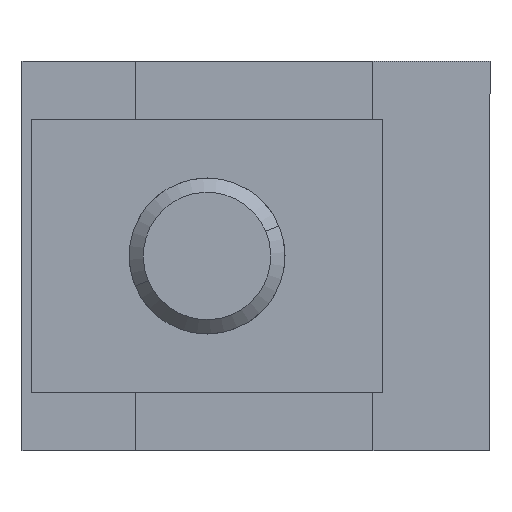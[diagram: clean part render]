
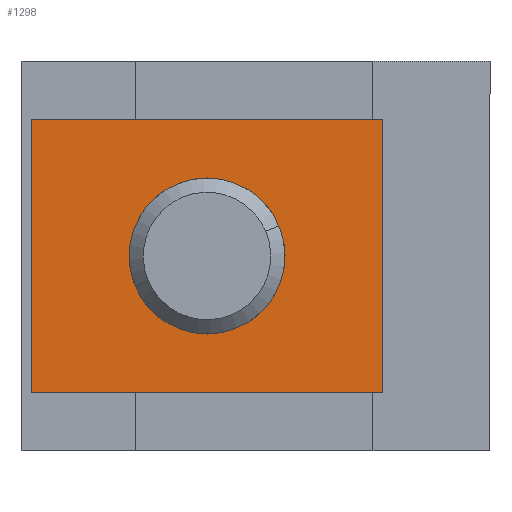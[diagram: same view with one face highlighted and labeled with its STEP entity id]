
A CAD part, front view. The second image highlights one B-rep face of the part: STEP entity #1298.
In plain terms, the highlighted planar face has unit normal (0, -1, 0).
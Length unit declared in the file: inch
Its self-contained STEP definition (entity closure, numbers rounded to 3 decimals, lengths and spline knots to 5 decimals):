
#37 = CARTESIAN_POINT ( 'NONE',  ( -0.4375, 0., 0.5625 ) ) ;
#48 = VERTEX_POINT ( 'NONE', #37 ) ;
#50 = CARTESIAN_POINT ( 'NONE',  ( 0., 0., 0.25 ) ) ;
#108 = CARTESIAN_POINT ( 'NONE',  ( 0.4375, 0., 0.5625 ) ) ;
#140 = EDGE_CURVE ( 'NONE', #822, #1328, #1306, .T. ) ;
#153 = CARTESIAN_POINT ( 'NONE',  ( -0.4375, 0., 0.5625 ) ) ;
#185 = VECTOR ( 'NONE', #1607, 39.37008 ) ;
#282 = VECTOR ( 'NONE', #792, 39.37008 ) ;
#288 = EDGE_CURVE ( 'NONE', #1134, #401, #365, .T. ) ;
#297 = CARTESIAN_POINT ( 'NONE',  ( 0., 0., 0. ) ) ;
#320 = DIRECTION ( 'NONE',  ( 0., 1., 0. ) ) ;
#365 = LINE ( 'NONE', #998, #1103 ) ;
#401 = VERTEX_POINT ( 'NONE', #1972 ) ;
#410 = ORIENTED_EDGE ( 'NONE', *, *, #288, .T. ) ;
#431 = CARTESIAN_POINT ( 'NONE',  ( 0., 0., -0.25 ) ) ;
#488 = CARTESIAN_POINT ( 'NONE',  ( 0., 0., 0. ) ) ;
#576 = DIRECTION ( 'NONE',  ( 0., 0., -1. ) ) ;
#600 = ORIENTED_EDGE ( 'NONE', *, *, #1064, .T. ) ;
#648 = EDGE_CURVE ( 'NONE', #1399, #401, #1027, .T. ) ;
#740 = CARTESIAN_POINT ( 'NONE',  ( 0.4375, 0., 0.5625 ) ) ;
#758 = EDGE_CURVE ( 'NONE', #1328, #822, #1642, .T. ) ;
#792 = DIRECTION ( 'NONE',  ( 0., 0., -1. ) ) ;
#821 = DIRECTION ( 'NONE',  ( 0., 1., 0. ) ) ;
#822 = VERTEX_POINT ( 'NONE', #50 ) ;
#840 = AXIS2_PLACEMENT_3D ( 'NONE', #488, #1942, #1119 ) ;
#874 = FACE_OUTER_BOUND ( 'NONE', #1658, .T. ) ;
#953 = VECTOR ( 'NONE', #576, 39.37008 ) ;
#956 = ORIENTED_EDGE ( 'NONE', *, *, #758, .T. ) ;
#960 = DIRECTION ( 'NONE',  ( 0., 0., 1. ) ) ;
#998 = CARTESIAN_POINT ( 'NONE',  ( -0.4375, 0., -0.5625 ) ) ;
#1027 = LINE ( 'NONE', #740, #953 ) ;
#1064 = EDGE_CURVE ( 'NONE', #48, #1134, #1561, .T. ) ;
#1087 = ORIENTED_EDGE ( 'NONE', *, *, #1545, .F. ) ;
#1101 = AXIS2_PLACEMENT_3D ( 'NONE', #297, #821, #1277 ) ;
#1103 = VECTOR ( 'NONE', #1113, 39.37008 ) ;
#1113 = DIRECTION ( 'NONE',  ( 1., 0., 0. ) ) ;
#1119 = DIRECTION ( 'NONE',  ( 0., 0., 1. ) ) ;
#1134 = VERTEX_POINT ( 'NONE', #1418 ) ;
#1257 = LINE ( 'NONE', #153, #185 ) ;
#1277 = DIRECTION ( 'NONE',  ( 0., 0., 1. ) ) ;
#1291 = EDGE_LOOP ( 'NONE', ( #956, #1581 ) ) ;
#1298 = ADVANCED_FACE ( 'NONE', ( #874, #1508 ), #1906, .F. ) ;
#1306 = CIRCLE ( 'NONE', #1101, 0.25 ) ;
#1328 = VERTEX_POINT ( 'NONE', #431 ) ;
#1399 = VERTEX_POINT ( 'NONE', #108 ) ;
#1418 = CARTESIAN_POINT ( 'NONE',  ( -0.4375, 0., -0.5625 ) ) ;
#1508 = FACE_BOUND ( 'NONE', #1291, .T. ) ;
#1545 = EDGE_CURVE ( 'NONE', #48, #1399, #1257, .T. ) ;
#1561 = LINE ( 'NONE', #2042, #282 ) ;
#1581 = ORIENTED_EDGE ( 'NONE', *, *, #140, .T. ) ;
#1607 = DIRECTION ( 'NONE',  ( 1., 0., 0. ) ) ;
#1642 = CIRCLE ( 'NONE', #840, 0.25 ) ;
#1658 = EDGE_LOOP ( 'NONE', ( #410, #1890, #1087, #600 ) ) ;
#1745 = AXIS2_PLACEMENT_3D ( 'NONE', #1756, #320, #960 ) ;
#1756 = CARTESIAN_POINT ( 'NONE',  ( -0.4375, 0., 0.5625 ) ) ;
#1890 = ORIENTED_EDGE ( 'NONE', *, *, #648, .F. ) ;
#1906 = PLANE ( 'NONE',  #1745 ) ;
#1942 = DIRECTION ( 'NONE',  ( 0., 1., 0. ) ) ;
#1972 = CARTESIAN_POINT ( 'NONE',  ( 0.4375, 0., -0.5625 ) ) ;
#2042 = CARTESIAN_POINT ( 'NONE',  ( -0.4375, 0., 0.5625 ) ) ;
